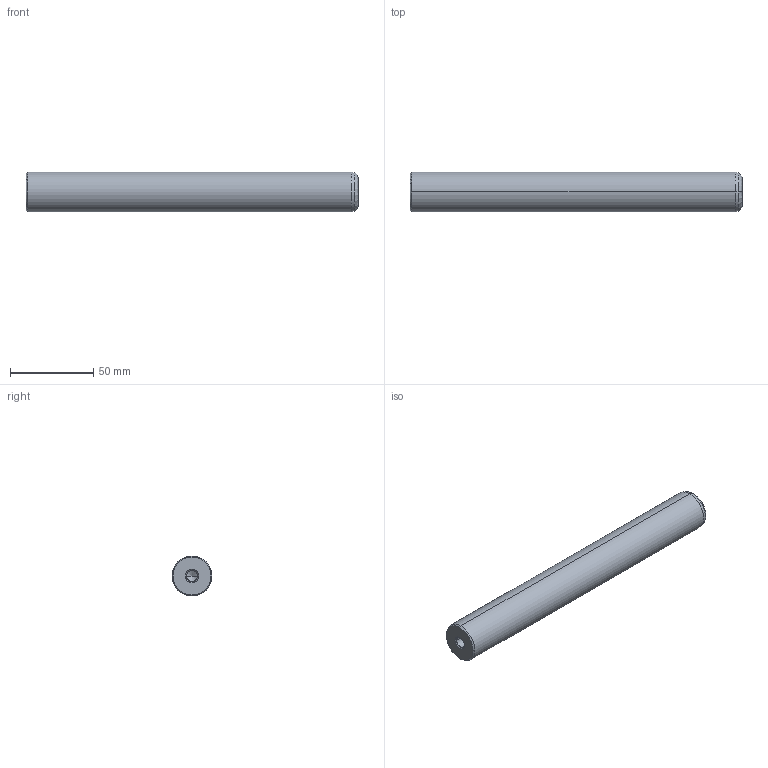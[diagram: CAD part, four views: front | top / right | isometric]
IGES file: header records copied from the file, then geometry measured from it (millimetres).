
Start section: START RECORD GO HERE.
Global section: file name: 720-24x200.igs; native system: DASSAULT SYSTEMES CATIA V5 R20 - www.3ds.com; preprocessor: CATIA Version 5 Release 20 ; author: Utente; organization: NB04-ASUS; date: 20210101.135149; units: millimetre
Bounding box: 200 x 24 x 24 mm (x, y, z)
Surface area: 16819.7 mm2 (no closed solid volume)
Topology: 0 solids, 0 shells, 22 faces, 108 edges, 104 vertices
Faces by surface type: revolution 20, plane 2
